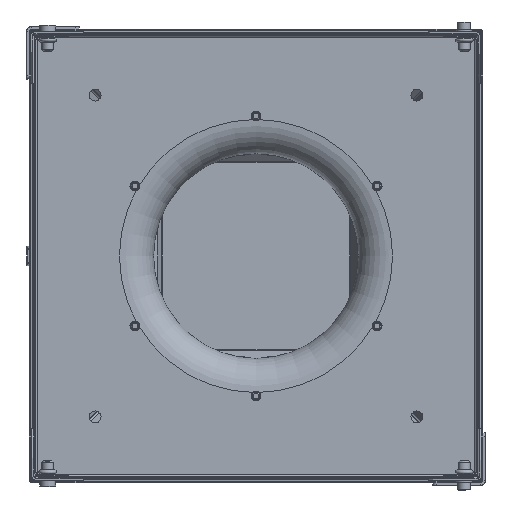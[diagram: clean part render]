
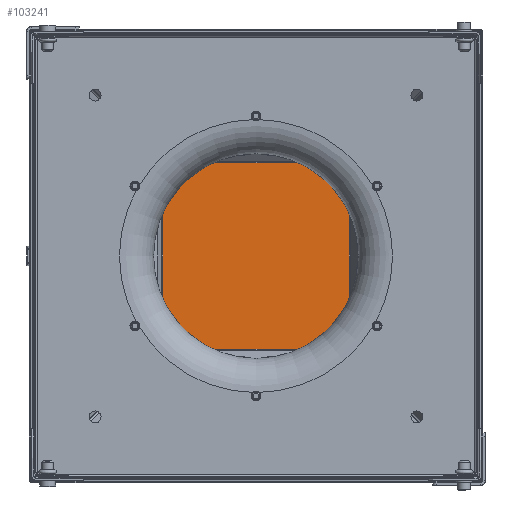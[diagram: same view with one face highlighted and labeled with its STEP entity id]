
A CAD part, front view. The second image highlights one B-rep face of the part: STEP entity #103241.
In plain terms, the highlighted planar face has unit normal (0, -1, 0).
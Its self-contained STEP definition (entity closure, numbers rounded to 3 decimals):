
#489 = AXIS2_PLACEMENT_3D ( 'NONE', #12205, #102660, #25220 ) ;
#4822 = LINE ( 'NONE', #68779, #8847 ) ;
#8847 = VECTOR ( 'NONE', #159271, 1000. ) ;
#12205 = CARTESIAN_POINT ( 'NONE',  ( 0., 427.364, 0. ) ) ;
#13207 = EDGE_CURVE ( 'NONE', #97702, #80934, #80525, .T. ) ;
#25220 = DIRECTION ( 'NONE',  ( 0., 0., 1. ) ) ;
#35361 = CARTESIAN_POINT ( 'NONE',  ( -70.928, 427.364, 70.928 ) ) ;
#43017 = VERTEX_POINT ( 'NONE', #35361 ) ;
#50138 = ORIENTED_EDGE ( 'NONE', *, *, #125580, .F. ) ;
#55559 = LINE ( 'NONE', #60656, #120288 ) ;
#57366 = DIRECTION ( 'NONE',  ( 0., 0., 1. ) ) ;
#60656 = CARTESIAN_POINT ( 'NONE',  ( -70.928, 427.364, 70.928 ) ) ;
#64175 = FACE_OUTER_BOUND ( 'NONE', #118799, .T. ) ;
#65318 = VECTOR ( 'NONE', #57366, 1000. ) ;
#68779 = CARTESIAN_POINT ( 'NONE',  ( 70.928, 427.364, 70.928 ) ) ;
#80525 = LINE ( 'NONE', #110755, #110798 ) ;
#80934 = VERTEX_POINT ( 'NONE', #92161 ) ;
#92161 = CARTESIAN_POINT ( 'NONE',  ( -70.928, 427.364, -70.928 ) ) ;
#97702 = VERTEX_POINT ( 'NONE', #156100 ) ;
#102660 = DIRECTION ( 'NONE',  ( 0., 1., 0. ) ) ;
#103241 = ADVANCED_FACE ( 'NONE', ( #64175 ), #167173, .F. ) ;
#104184 = CARTESIAN_POINT ( 'NONE',  ( 70.928, 427.364, 70.928 ) ) ;
#107143 = ORIENTED_EDGE ( 'NONE', *, *, #13207, .F. ) ;
#110755 = CARTESIAN_POINT ( 'NONE',  ( 70.928, 427.364, -70.928 ) ) ;
#110798 = VECTOR ( 'NONE', #111298, 1000. ) ;
#111298 = DIRECTION ( 'NONE',  ( -1., 0., 0. ) ) ;
#118799 = EDGE_LOOP ( 'NONE', ( #130352, #50138, #107143, #124924 ) ) ;
#120288 = VECTOR ( 'NONE', #164147, 1000. ) ;
#123920 = EDGE_CURVE ( 'NONE', #43017, #141326, #55559, .T. ) ;
#124924 = ORIENTED_EDGE ( 'NONE', *, *, #148908, .F. ) ;
#125580 = EDGE_CURVE ( 'NONE', #80934, #43017, #160379, .T. ) ;
#130352 = ORIENTED_EDGE ( 'NONE', *, *, #123920, .F. ) ;
#134830 = CARTESIAN_POINT ( 'NONE',  ( -70.928, 427.364, -70.928 ) ) ;
#141326 = VERTEX_POINT ( 'NONE', #104184 ) ;
#148908 = EDGE_CURVE ( 'NONE', #141326, #97702, #4822, .T. ) ;
#156100 = CARTESIAN_POINT ( 'NONE',  ( 70.928, 427.364, -70.928 ) ) ;
#159271 = DIRECTION ( 'NONE',  ( 0., 0., -1. ) ) ;
#160379 = LINE ( 'NONE', #134830, #65318 ) ;
#164147 = DIRECTION ( 'NONE',  ( 1., 0., 0. ) ) ;
#167173 = PLANE ( 'NONE',  #489 ) ;
